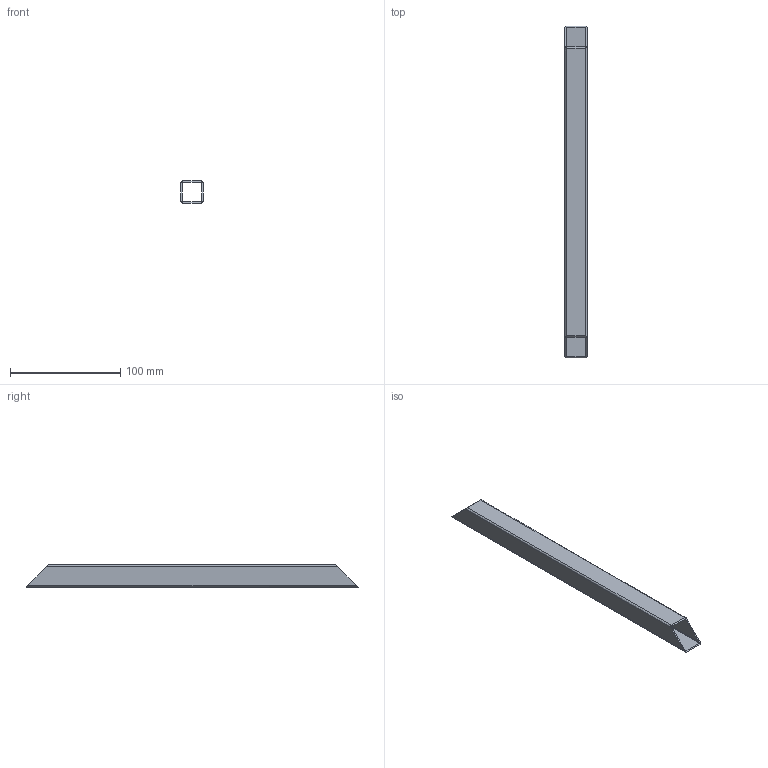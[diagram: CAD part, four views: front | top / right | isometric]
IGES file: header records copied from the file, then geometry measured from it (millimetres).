
Global section: file name: 0393-13-30; native system: VariCAD 2020-1.02; preprocessor: 5.3; author: LVVS3874K00E; organization: Elphe, Inc.; date: 20250930.171041; units: millimetre
Bounding box: 20 x 301 x 20 mm (x, y, z)
Surface area: 41957.3 mm2 (no closed solid volume)
Topology: 0 solids, 0 shells, 18 faces, 96 edges, 96 vertices
Faces by surface type: bspline 10, revolution 8
